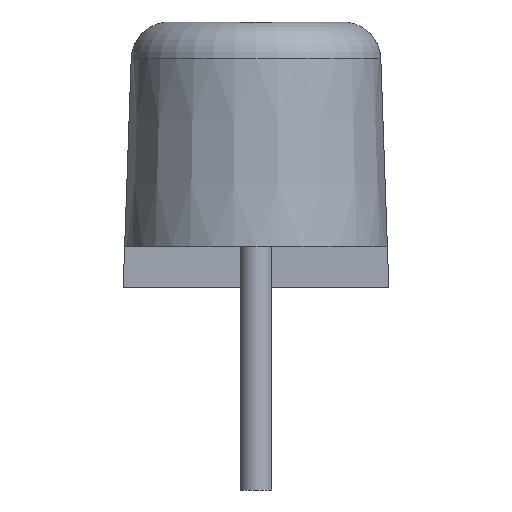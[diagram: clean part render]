
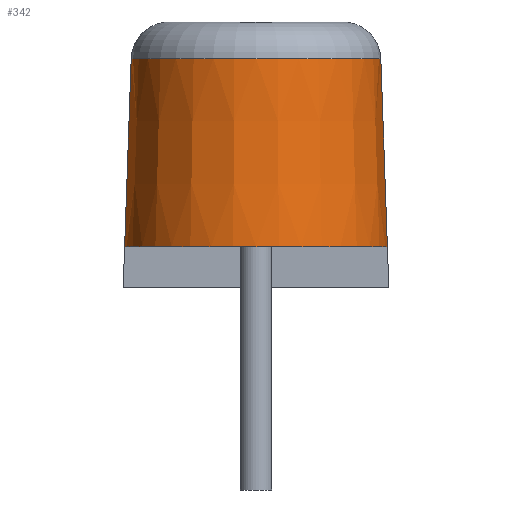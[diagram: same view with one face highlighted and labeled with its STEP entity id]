
A CAD part, front view. The second image highlights one B-rep face of the part: STEP entity #342.
In plain terms, the highlighted conical face has half-angle 2 degrees and reference radius 2.1 mm.
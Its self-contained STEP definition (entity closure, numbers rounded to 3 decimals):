
#184=CARTESIAN_POINT('',(-1.974,-9.421,3.621));
#185=VERTEX_POINT('',#184);
#226=CARTESIAN_POINT('',(1.974,-9.421,3.621));
#227=VERTEX_POINT('',#226);
#245=CARTESIAN_POINT('',(0.,-9.421,3.621));
#246=DIRECTION('',(0.0,0.0,1.0));
#247=DIRECTION('',(0.0,-1.0,0.0));
#248=AXIS2_PLACEMENT_3D('',#245,#246,#247);
#249=CIRCLE('',#248,1.974);
#250=EDGE_CURVE('',#185,#227,#249,.T.);
#311=CARTESIAN_POINT('',(0.,-9.421,0.0));
#312=DIRECTION('',(0.0,0.0,-1.0));
#313=DIRECTION('',(1.0,0.0,0.0));
#314=AXIS2_PLACEMENT_3D('',#311,#312,#313);
#315=CONICAL_SURFACE('',#314,2.1,2.0);
#316=ORIENTED_EDGE('',*,*,#250,.F.);
#317=CARTESIAN_POINT('',(-2.077,-9.421,0.65));
#318=VERTEX_POINT('',#317);
#319=CARTESIAN_POINT('',(-2.077,-9.421,0.65));
#320=DIRECTION('',(0.035,0.0,0.999));
#321=VECTOR('',#320,2.973);
#322=LINE('',#319,#321);
#323=EDGE_CURVE('',#318,#185,#322,.T.);
#324=ORIENTED_EDGE('',*,*,#323,.F.);
#325=CARTESIAN_POINT('',(2.077,-9.421,0.65));
#326=VERTEX_POINT('',#325);
#327=CARTESIAN_POINT('',(0.,-9.421,0.65));
#328=DIRECTION('',(0.0,0.0,1.0));
#329=DIRECTION('',(1.0,0.0,0.0));
#330=AXIS2_PLACEMENT_3D('',#327,#328,#329);
#331=CIRCLE('',#330,2.077);
#332=EDGE_CURVE('',#318,#326,#331,.T.);
#333=ORIENTED_EDGE('',*,*,#332,.T.);
#334=CARTESIAN_POINT('',(2.077,-9.421,0.65));
#335=DIRECTION('',(-0.035,0.0,0.999));
#336=VECTOR('',#335,2.973);
#337=LINE('',#334,#336);
#338=EDGE_CURVE('',#326,#227,#337,.T.);
#339=ORIENTED_EDGE('',*,*,#338,.T.);
#340=EDGE_LOOP('',(#316,#324,#333,#339));
#341=FACE_OUTER_BOUND('',#340,.T.);
#342=ADVANCED_FACE('',(#341),#315,.T.);
